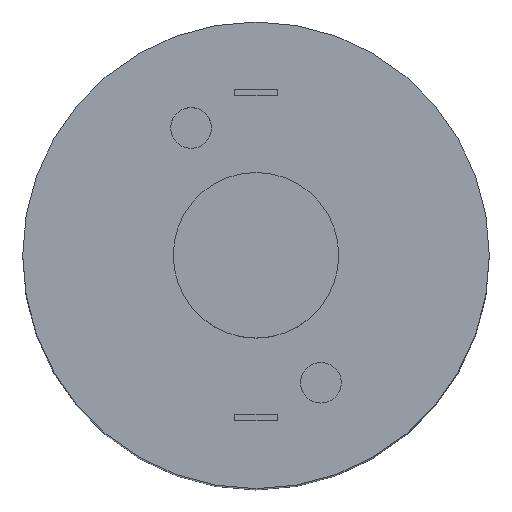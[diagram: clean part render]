
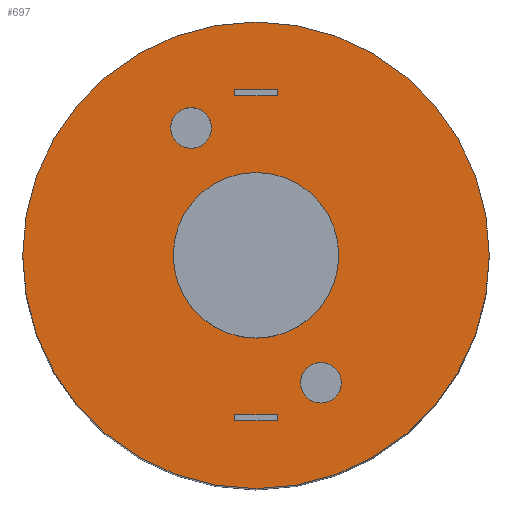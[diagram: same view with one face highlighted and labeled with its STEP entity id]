
A CAD part, top view. The second image highlights one B-rep face of the part: STEP entity #697.
In plain terms, the highlighted planar face has unit normal (0, 0, 1).
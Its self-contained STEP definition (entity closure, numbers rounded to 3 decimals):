
#2 = ORIENTED_EDGE ( 'NONE', *, *, #1177, .T. ) ;
#10 = LINE ( 'NONE', #838, #655 ) ;
#34 = LINE ( 'NONE', #950, #310 ) ;
#41 = EDGE_CURVE ( 'NONE', #401, #991, #1309, .T. ) ;
#65 = DIRECTION ( 'NONE',  ( 1., 0., 0. ) ) ;
#71 = CIRCLE ( 'NONE', #238, 15.5 ) ;
#81 = AXIS2_PLACEMENT_3D ( 'NONE', #1266, #1042, #1311 ) ;
#85 = ORIENTED_EDGE ( 'NONE', *, *, #1170, .T. ) ;
#86 = CARTESIAN_POINT ( 'NONE',  ( -7.102, 1.673, 42. ) ) ;
#89 = VERTEX_POINT ( 'NONE', #563 ) ;
#90 = VECTOR ( 'NONE', #826, 1000. ) ;
#112 = DIRECTION ( 'NONE',  ( 1., 0., 0. ) ) ;
#133 = FACE_BOUND ( 'NONE', #544, .T. ) ;
#159 = VERTEX_POINT ( 'NONE', #86 ) ;
#169 = CIRCLE ( 'NONE', #892, 15.5 ) ;
#197 = CIRCLE ( 'NONE', #81, 1.35 ) ;
#207 = ORIENTED_EDGE ( 'NONE', *, *, #957, .T. ) ;
#218 = CARTESIAN_POINT ( 'NONE',  ( -1.602, 1.673, 42. ) ) ;
#227 = CARTESIAN_POINT ( 'NONE',  ( -1.602, 1.673, 42. ) ) ;
#238 = AXIS2_PLACEMENT_3D ( 'NONE', #218, #657, #952 ) ;
#256 = CARTESIAN_POINT ( 'NONE',  ( -3.002, -9.127, 42. ) ) ;
#257 = FACE_BOUND ( 'NONE', #386, .T. ) ;
#262 = CARTESIAN_POINT ( 'NONE',  ( -0.202, -8.927, 42. ) ) ;
#264 = CARTESIAN_POINT ( 'NONE',  ( 1.361, -6.792, 42. ) ) ;
#279 = CIRCLE ( 'NONE', #1337, 1.35 ) ;
#281 = EDGE_CURVE ( 'NONE', #1092, #936, #616, .T. ) ;
#282 = ORIENTED_EDGE ( 'NONE', *, *, #352, .T. ) ;
#290 = CARTESIAN_POINT ( 'NONE',  ( -1.602, 1.673, 42. ) ) ;
#298 = CARTESIAN_POINT ( 'NONE',  ( 4.061, -6.792, 42. ) ) ;
#300 = VERTEX_POINT ( 'NONE', #262 ) ;
#310 = VECTOR ( 'NONE', #776, 1000. ) ;
#311 = DIRECTION ( 'NONE',  ( 0., 0., 1. ) ) ;
#312 = CARTESIAN_POINT ( 'NONE',  ( -1.602, 1.673, 42. ) ) ;
#352 = EDGE_CURVE ( 'NONE', #741, #806, #197, .T. ) ;
#354 = EDGE_CURVE ( 'NONE', #1275, #1044, #1268, .T. ) ;
#355 = DIRECTION ( 'NONE',  ( 0., 0., -1. ) ) ;
#358 = EDGE_CURVE ( 'NONE', #1044, #886, #10, .T. ) ;
#360 = VERTEX_POINT ( 'NONE', #1363 ) ;
#382 = CARTESIAN_POINT ( 'NONE',  ( -1.602, -8.927, 42. ) ) ;
#386 = EDGE_LOOP ( 'NONE', ( #975, #749, #1233, #1041 ) ) ;
#389 = CARTESIAN_POINT ( 'NONE',  ( -17.102, -13.827, 42. ) ) ;
#392 = EDGE_CURVE ( 'NONE', #886, #360, #1166, .T. ) ;
#399 = AXIS2_PLACEMENT_3D ( 'NONE', #389, #792, #112 ) ;
#401 = VERTEX_POINT ( 'NONE', #1054 ) ;
#423 = EDGE_LOOP ( 'NONE', ( #282, #85 ) ) ;
#466 = VECTOR ( 'NONE', #1262, 1000. ) ;
#504 = CIRCLE ( 'NONE', #1393, 5.5 ) ;
#514 = DIRECTION ( 'NONE',  ( 0., 0., -1. ) ) ;
#516 = DIRECTION ( 'NONE',  ( 1., 0., 0. ) ) ;
#535 = CARTESIAN_POINT ( 'NONE',  ( -0.202, -9.327, 42. ) ) ;
#544 = EDGE_LOOP ( 'NONE', ( #716, #207 ) ) ;
#563 = CARTESIAN_POINT ( 'NONE',  ( 3.898, 1.673, 42. ) ) ;
#564 = DIRECTION ( 'NONE',  ( 1., 0., 0. ) ) ;
#570 = CARTESIAN_POINT ( 'NONE',  ( 2.711, -6.792, 42. ) ) ;
#572 = ORIENTED_EDGE ( 'NONE', *, *, #641, .T. ) ;
#578 = CARTESIAN_POINT ( 'NONE',  ( -0.202, 12.473, 42. ) ) ;
#608 = DIRECTION ( 'NONE',  ( 1., 0., 0. ) ) ;
#616 = CIRCLE ( 'NONE', #1381, 1.35 ) ;
#619 = VERTEX_POINT ( 'NONE', #1241 ) ;
#634 = FACE_OUTER_BOUND ( 'NONE', #700, .T. ) ;
#636 = CARTESIAN_POINT ( 'NONE',  ( -3.002, 12.473, 42. ) ) ;
#641 = EDGE_CURVE ( 'NONE', #159, #89, #962, .T. ) ;
#655 = VECTOR ( 'NONE', #1323, 1000. ) ;
#657 = DIRECTION ( 'NONE',  ( 0., 0., 1. ) ) ;
#664 = CARTESIAN_POINT ( 'NONE',  ( -3.002, 12.673, 42. ) ) ;
#688 = EDGE_CURVE ( 'NONE', #619, #1350, #71, .T. ) ;
#695 = DIRECTION ( 'NONE',  ( 0., 1., 0. ) ) ;
#697 = ADVANCED_FACE ( 'NONE', ( #1017, #257, #1001, #1356, #133, #634 ), #1251, .T. ) ;
#700 = EDGE_LOOP ( 'NONE', ( #1173, #1189 ) ) ;
#710 = LINE ( 'NONE', #382, #965 ) ;
#716 = ORIENTED_EDGE ( 'NONE', *, *, #281, .T. ) ;
#727 = VECTOR ( 'NONE', #1047, 1000. ) ;
#741 = VERTEX_POINT ( 'NONE', #986 ) ;
#749 = ORIENTED_EDGE ( 'NONE', *, *, #392, .F. ) ;
#762 = DIRECTION ( 'NONE',  ( 1., 0., 0. ) ) ;
#764 = CARTESIAN_POINT ( 'NONE',  ( -7.265, 10.137, 42. ) ) ;
#767 = DIRECTION ( 'NONE',  ( 0., -1., 0. ) ) ;
#776 = DIRECTION ( 'NONE',  ( -1., 0., 0. ) ) ;
#779 = LINE ( 'NONE', #979, #727 ) ;
#792 = DIRECTION ( 'NONE',  ( 0., 0., 1. ) ) ;
#806 = VERTEX_POINT ( 'NONE', #764 ) ;
#826 = DIRECTION ( 'NONE',  ( 1., 0., 0. ) ) ;
#837 = CARTESIAN_POINT ( 'NONE',  ( -17.102, 1.673, 42. ) ) ;
#838 = CARTESIAN_POINT ( 'NONE',  ( -1.602, 12.273, 42. ) ) ;
#839 = DIRECTION ( 'NONE',  ( 1., 0., 0. ) ) ;
#847 = VERTEX_POINT ( 'NONE', #535 ) ;
#848 = CARTESIAN_POINT ( 'NONE',  ( -0.202, 12.273, 42. ) ) ;
#850 = CARTESIAN_POINT ( 'NONE',  ( -3.002, -9.327, 42. ) ) ;
#856 = VECTOR ( 'NONE', #767, 1000. ) ;
#886 = VERTEX_POINT ( 'NONE', #848 ) ;
#892 = AXIS2_PLACEMENT_3D ( 'NONE', #312, #311, #65 ) ;
#909 = DIRECTION ( 'NONE',  ( 1., 0., 0. ) ) ;
#931 = DIRECTION ( 'NONE',  ( 0., 0., -1. ) ) ;
#936 = VERTEX_POINT ( 'NONE', #264 ) ;
#950 = CARTESIAN_POINT ( 'NONE',  ( -1.602, -9.327, 42. ) ) ;
#952 = DIRECTION ( 'NONE',  ( 1., 0., 0. ) ) ;
#957 = EDGE_CURVE ( 'NONE', #936, #1092, #279, .T. ) ;
#962 = CIRCLE ( 'NONE', #1037, 5.5 ) ;
#965 = VECTOR ( 'NONE', #516, 1000. ) ;
#970 = DIRECTION ( 'NONE',  ( 0., 0., -1. ) ) ;
#975 = ORIENTED_EDGE ( 'NONE', *, *, #1218, .T. ) ;
#979 = CARTESIAN_POINT ( 'NONE',  ( -0.202, -9.127, 42. ) ) ;
#986 = CARTESIAN_POINT ( 'NONE',  ( -4.565, 10.137, 42. ) ) ;
#991 = VERTEX_POINT ( 'NONE', #850 ) ;
#1001 = FACE_BOUND ( 'NONE', #1024, .T. ) ;
#1017 = FACE_BOUND ( 'NONE', #1332, .T. ) ;
#1024 = EDGE_LOOP ( 'NONE', ( #1416, #2, #1154, #1269 ) ) ;
#1037 = AXIS2_PLACEMENT_3D ( 'NONE', #227, #1308, #839 ) ;
#1041 = ORIENTED_EDGE ( 'NONE', *, *, #354, .F. ) ;
#1042 = DIRECTION ( 'NONE',  ( 0., 0., -1. ) ) ;
#1044 = VERTEX_POINT ( 'NONE', #1402 ) ;
#1047 = DIRECTION ( 'NONE',  ( 0., 1., 0. ) ) ;
#1054 = CARTESIAN_POINT ( 'NONE',  ( -3.002, -8.927, 42. ) ) ;
#1086 = EDGE_CURVE ( 'NONE', #1350, #619, #169, .T. ) ;
#1090 = CIRCLE ( 'NONE', #1240, 1.35 ) ;
#1092 = VERTEX_POINT ( 'NONE', #298 ) ;
#1095 = CARTESIAN_POINT ( 'NONE',  ( -1.602, 12.673, 42. ) ) ;
#1103 = ORIENTED_EDGE ( 'NONE', *, *, #1209, .T. ) ;
#1131 = EDGE_CURVE ( 'NONE', #847, #300, #779, .T. ) ;
#1154 = ORIENTED_EDGE ( 'NONE', *, *, #1131, .F. ) ;
#1159 = CARTESIAN_POINT ( 'NONE',  ( 2.711, -6.792, 42. ) ) ;
#1166 = LINE ( 'NONE', #578, #1384 ) ;
#1168 = LINE ( 'NONE', #1095, #90 ) ;
#1170 = EDGE_CURVE ( 'NONE', #806, #741, #1090, .T. ) ;
#1173 = ORIENTED_EDGE ( 'NONE', *, *, #688, .T. ) ;
#1177 = EDGE_CURVE ( 'NONE', #401, #300, #710, .T. ) ;
#1189 = ORIENTED_EDGE ( 'NONE', *, *, #1086, .T. ) ;
#1195 = EDGE_CURVE ( 'NONE', #847, #991, #34, .T. ) ;
#1209 = EDGE_CURVE ( 'NONE', #89, #159, #504, .T. ) ;
#1218 = EDGE_CURVE ( 'NONE', #1275, #360, #1168, .T. ) ;
#1233 = ORIENTED_EDGE ( 'NONE', *, *, #358, .F. ) ;
#1240 = AXIS2_PLACEMENT_3D ( 'NONE', #1386, #514, #608 ) ;
#1241 = CARTESIAN_POINT ( 'NONE',  ( 13.898, 1.673, 42. ) ) ;
#1251 = PLANE ( 'NONE',  #399 ) ;
#1262 = DIRECTION ( 'NONE',  ( 0., -1., 0. ) ) ;
#1266 = CARTESIAN_POINT ( 'NONE',  ( -5.915, 10.137, 42. ) ) ;
#1268 = LINE ( 'NONE', #636, #856 ) ;
#1269 = ORIENTED_EDGE ( 'NONE', *, *, #1195, .T. ) ;
#1275 = VERTEX_POINT ( 'NONE', #664 ) ;
#1308 = DIRECTION ( 'NONE',  ( 0., 0., -1. ) ) ;
#1309 = LINE ( 'NONE', #256, #466 ) ;
#1311 = DIRECTION ( 'NONE',  ( 1., 0., 0. ) ) ;
#1323 = DIRECTION ( 'NONE',  ( 1., 0., 0. ) ) ;
#1332 = EDGE_LOOP ( 'NONE', ( #1103, #572 ) ) ;
#1337 = AXIS2_PLACEMENT_3D ( 'NONE', #570, #970, #762 ) ;
#1350 = VERTEX_POINT ( 'NONE', #837 ) ;
#1356 = FACE_BOUND ( 'NONE', #423, .T. ) ;
#1363 = CARTESIAN_POINT ( 'NONE',  ( -0.202, 12.673, 42. ) ) ;
#1381 = AXIS2_PLACEMENT_3D ( 'NONE', #1159, #355, #909 ) ;
#1384 = VECTOR ( 'NONE', #695, 1000. ) ;
#1386 = CARTESIAN_POINT ( 'NONE',  ( -5.915, 10.137, 42. ) ) ;
#1393 = AXIS2_PLACEMENT_3D ( 'NONE', #290, #931, #564 ) ;
#1402 = CARTESIAN_POINT ( 'NONE',  ( -3.002, 12.273, 42. ) ) ;
#1416 = ORIENTED_EDGE ( 'NONE', *, *, #41, .F. ) ;
